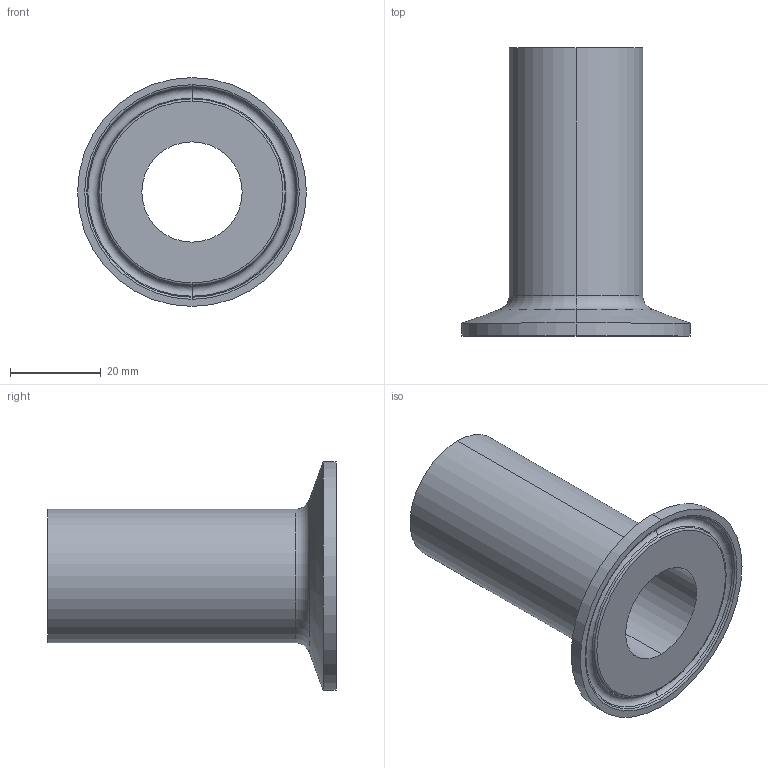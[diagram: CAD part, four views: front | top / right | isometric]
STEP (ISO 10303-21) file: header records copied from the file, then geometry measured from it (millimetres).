
FILE_DESCRIPTION (( 'STEP AP214' ), '1' );
FILE_NAME ('EG14WSL-C6L1.0 REV1.STEP', '2025-10-09T13:25:35', ( '' ), ( '' ), 'SwSTEP 2.0', 'SolidWorks 2023', '' );
FILE_SCHEMA (( 'AUTOMOTIVE_DESIGN' ));
Length unit declared in the file: inch
Products named in the file (1): EG14WSL-C6L1.0 REV1
Bounding box: 50.39 x 63.5 x 50.39 mm (x, y, z)
Volume: 24574 mm3; surface area: 13597.1 mm2
Topology: 1 solids, 1 shells, 23 faces, 46 edges, 26 vertices
Faces by surface type: torus 8, cylinder 6, cone 6, plane 3
Entity records: 633 total; most frequent: DIRECTION 128, CARTESIAN_POINT 96, ORIENTED_EDGE 92, AXIS2_PLACEMENT_3D 58, EDGE_CURVE 46, CIRCLE 34, EDGE_LOOP 26, VERTEX_POINT 26
